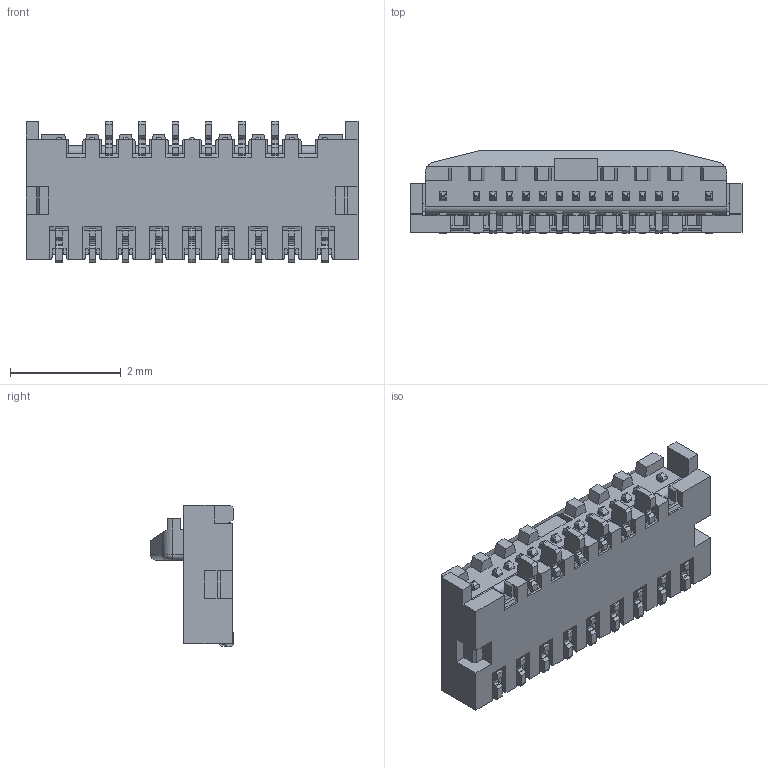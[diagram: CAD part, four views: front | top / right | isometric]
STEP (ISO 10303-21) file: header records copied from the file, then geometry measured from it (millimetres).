
FILE_DESCRIPTION (( 'STEP AP203' ), '1' );
FILE_NAME ('20599-013ExC ASS''Y ACT OPEN STEP R0 Garmin.STEP', '2013-08-06T03:49:05', ( ' ' ), ( ' ' ), 'SwSTEP 2.0', 'SolidWorks 2011', '' );
FILE_SCHEMA (( 'CONFIG_CONTROL_DESIGN' ));
Length unit declared in the file: millimetre
Products named in the file (1): 20599-013ExC ASS''Y ACT OPEN STEP R0 Garmin
Bounding box: 6 x 1.5 x 2.55 mm (x, y, z)
Volume: 11.8 mm3; surface area: 72.1 mm2
Topology: 1 solids, 1 shells, 1320 faces, 3885 edges, 2552 vertices
Faces by surface type: plane 1085, cylinder 230, sphere 2, torus 2, bspline 1
Entity records: 43618 total; most frequent: CARTESIAN_POINT 8138, ORIENTED_EDGE 7766, DIRECTION 6865, EDGE_CURVE 3883, VECTOR 3343, LINE 3343, VERTEX_POINT 2552, AXIS2_PLACEMENT_3D 1761
